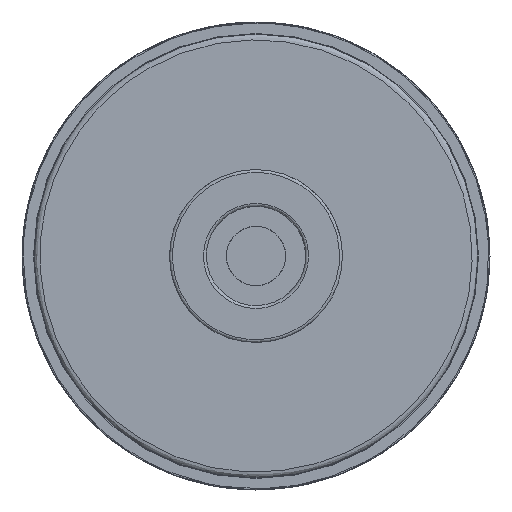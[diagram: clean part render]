
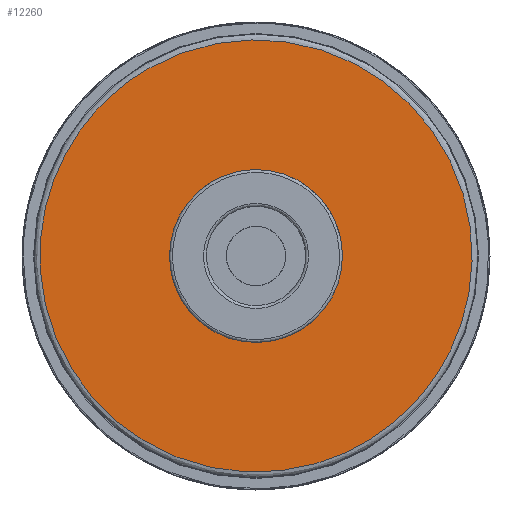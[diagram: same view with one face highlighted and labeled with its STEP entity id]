
A CAD part, front view. The second image highlights one B-rep face of the part: STEP entity #12260.
In plain terms, the highlighted planar face has unit normal (0, -1, 0).
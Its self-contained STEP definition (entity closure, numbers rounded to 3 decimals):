
#331 = EDGE_LOOP ( 'NONE', ( #6877 ) ) ;
#926 = CARTESIAN_POINT ( 'NONE',  ( -3.2, -6.39, 5.543 ) ) ;
#1160 = VERTEX_POINT ( 'NONE', #926 ) ;
#2135 = CARTESIAN_POINT ( 'NONE',  ( -18.75, -6.39, 32.476 ) ) ;
#2579 = AXIS2_PLACEMENT_3D ( 'NONE', #11738, #11884, #13092 ) ;
#3260 = CARTESIAN_POINT ( 'NONE',  ( 46.202, -6.39, 69.976 ) ) ;
#4014 = DIRECTION ( 'NONE',  ( -0.5, 0., 0.866 ) ) ;
#4393 = CARTESIAN_POINT ( 'NONE',  ( -18.75, -6.39, 32.476 ) ) ;
#4549 = CARTESIAN_POINT ( 'NONE',  ( -46.202, -6.39, -69.976 ) ) ;
#4898 = FACE_BOUND ( 'NONE', #331, .T. ) ;
#4937 = EDGE_CURVE ( 'NONE', #14630, #14630, #7426, .T. ) ;
#5234 = CARTESIAN_POINT ( 'NONE',  ( -18.75, -6.39, 32.476 ) ) ;
#6036 = FACE_OUTER_BOUND ( 'NONE', #7103, .T. ) ;
#6877 = ORIENTED_EDGE ( 'NONE', *, *, #7760, .F. ) ;
#7103 = EDGE_LOOP ( 'NONE', ( #9683 ) ) ;
#7327 = PLANE ( 'NONE',  #2579 ) ;
#7426 =( BOUNDED_CURVE ( )  B_SPLINE_CURVE ( 3, ( #4393, #3260, #9264, #8045, #4549, #9031, #2135 ),
 .UNSPECIFIED., .T., .T. ) 
 B_SPLINE_CURVE_WITH_KNOTS ( ( 4, 3, 4 ),
 ( 0., 0.5, 1. ),
 .UNSPECIFIED. ) 
 CURVE ( )  GEOMETRIC_REPRESENTATION_ITEM ( )  RATIONAL_B_SPLINE_CURVE ( ( 1., 0.333, 0.333, 1., 0.333, 0.333, 1. ) ) 
 REPRESENTATION_ITEM ( '' )  );
#7760 = EDGE_CURVE ( 'NONE', #1160, #1160, #13903, .T. ) ;
#8045 = CARTESIAN_POINT ( 'NONE',  ( 18.75, -6.39, -32.476 ) ) ;
#8339 = AXIS2_PLACEMENT_3D ( 'NONE', #14253, #10917, #4014 ) ;
#9031 = CARTESIAN_POINT ( 'NONE',  ( -83.702, -6.39, -5.024 ) ) ;
#9264 = CARTESIAN_POINT ( 'NONE',  ( 83.702, -6.39, 5.024 ) ) ;
#9683 = ORIENTED_EDGE ( 'NONE', *, *, #4937, .F. ) ;
#10917 = DIRECTION ( 'NONE',  ( 0., -1., 0. ) ) ;
#11738 = CARTESIAN_POINT ( 'NONE',  ( 0., -6.39, 0. ) ) ;
#11884 = DIRECTION ( 'NONE',  ( 0., 1., 0. ) ) ;
#12260 = ADVANCED_FACE ( 'NONE', ( #6036, #4898 ), #7327, .F. ) ;
#13092 = DIRECTION ( 'NONE',  ( -0.5, 0., 0.866 ) ) ;
#13903 = CIRCLE ( 'NONE', #8339, 6.4 ) ;
#14253 = CARTESIAN_POINT ( 'NONE',  ( 0., -6.39, 0. ) ) ;
#14630 = VERTEX_POINT ( 'NONE', #5234 ) ;
